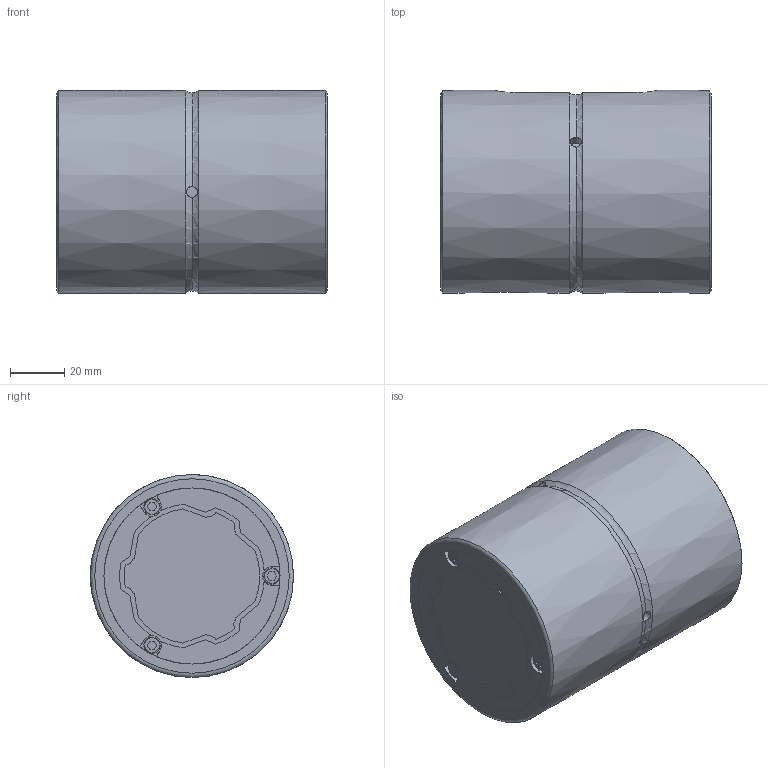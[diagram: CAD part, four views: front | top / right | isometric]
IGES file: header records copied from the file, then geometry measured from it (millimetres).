
Start section: Data from Parasolid IGES Translator 26.0.171, Copyright(c) 2006 Siemens PLM Software. All Rights Reserved.
Global section: file name: SLS501100(00).igs; native system: By Siemens PLM Incorporated; preprocessor: XPlus GENERIC/IGES 26.0.171; author: Noname; organization: Noname; date: 20240523.114658; units: millimetre
Bounding box: 100 x 75 x 75 mm (x, y, z)
Surface area: 65834.6 mm2 (no closed solid volume)
Topology: 0 solids, 0 shells, 261 faces, 1464 edges, 1448 vertices
Faces by surface type: revolution 133, extrusion 128
